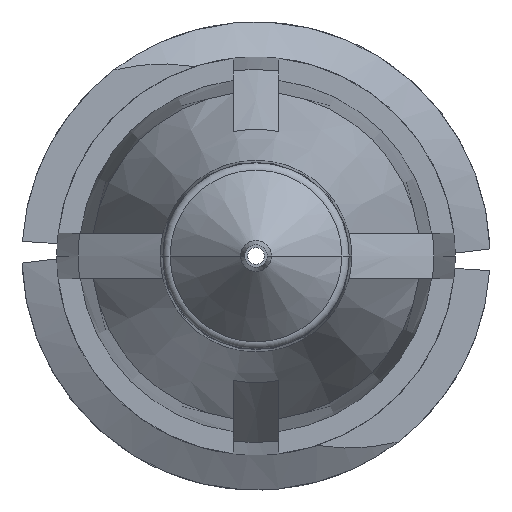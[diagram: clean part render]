
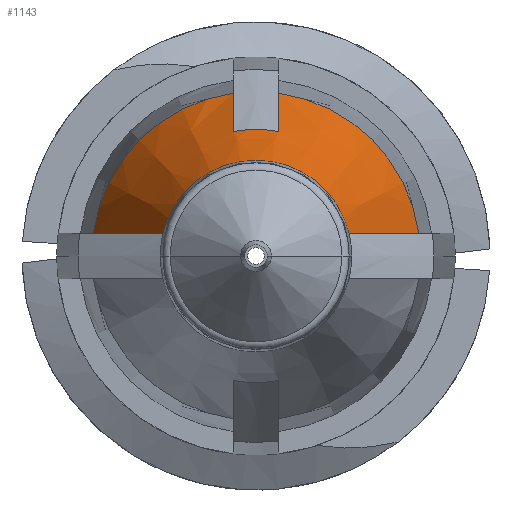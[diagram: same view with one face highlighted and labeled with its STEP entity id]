
A CAD part, front view. The second image highlights one B-rep face of the part: STEP entity #1143.
In plain terms, the highlighted conical face has half-angle 20 degrees and reference radius 2.745 mm.
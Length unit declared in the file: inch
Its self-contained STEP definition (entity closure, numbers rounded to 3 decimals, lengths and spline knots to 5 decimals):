
#5 = AXIS2_PLACEMENT_3D ( 'NONE', #179, #2522, #2738 ) ;
#23 = AXIS2_PLACEMENT_3D ( 'NONE', #2907, #1553, #2316 ) ;
#72 = DIRECTION ( 'NONE',  ( -1., 0., 0. ) ) ;
#164 = ORIENTED_EDGE ( 'NONE', *, *, #1667, .F. ) ;
#166 = CARTESIAN_POINT ( 'NONE',  ( 0.015, -0.406, 0.10703 ) ) ;
#168 = VERTEX_POINT ( 'NONE', #831 ) ;
#171 = EDGE_LOOP ( 'NONE', ( #3252, #2655, #757, #164, #3304, #1755, #1778, #1442 ) ) ;
#179 = CARTESIAN_POINT ( 'NONE',  ( 0., -0.406, 0. ) ) ;
#204 = CARTESIAN_POINT ( 'NONE',  ( 0., -0.406, 0. ) ) ;
#244 = CARTESIAN_POINT ( 'NONE',  ( -0.06119, -0.52985, 0.015 ) ) ;
#323 = EDGE_CURVE ( 'NONE', #2848, #1691, #1049, .T. ) ;
#353 = CONICAL_SURFACE ( 'NONE', #1115, 0.10808, 0.349 ) ;
#415 = CARTESIAN_POINT ( 'NONE',  ( 0.09185, -0.44732, 0.015 ) ) ;
#446 = CARTESIAN_POINT ( 'NONE',  ( 0.015, -0.47395, 0.08198 ) ) ;
#494 = EDGE_CURVE ( 'NONE', #2385, #2848, #1842, .T. ) ;
#711 = EDGE_CURVE ( 'NONE', #2385, #976, #2545, .T. ) ;
#729 = VERTEX_POINT ( 'NONE', #166 ) ;
#757 = ORIENTED_EDGE ( 'NONE', *, *, #2533, .T. ) ;
#791 = CIRCLE ( 'NONE', #2703, 0.10808 ) ;
#809 = CARTESIAN_POINT ( 'NONE',  ( 0.015, -0.47395, 0.08198 ) ) ;
#831 = CARTESIAN_POINT ( 'NONE',  ( -0.015, -0.47395, 0.08198 ) ) ;
#976 = VERTEX_POINT ( 'NONE', #2983 ) ;
#983 = VERTEX_POINT ( 'NONE', #2412 ) ;
#1046 = FACE_OUTER_BOUND ( 'NONE', #171, .T. ) ;
#1049 = CIRCLE ( 'NONE', #5, 0.10808 ) ;
#1079 = CARTESIAN_POINT ( 'NONE',  ( -0.015, -0.406, 0.10703 ) ) ;
#1095 = CARTESIAN_POINT ( 'NONE',  ( 0.015, -0.406, 0.10703 ) ) ;
#1115 = AXIS2_PLACEMENT_3D ( 'NONE', #1546, #2098, #2943 ) ;
#1128 = B_SPLINE_CURVE_WITH_KNOTS ( 'NONE', 3,
 ( #3289, #3301, #415, #1210 ),
 .UNSPECIFIED., .F., .F.,
 ( 4, 4 ),
 ( 0.00282, 0.00617 ),
 .UNSPECIFIED. ) ;
#1134 = CARTESIAN_POINT ( 'NONE',  ( -0.015, -0.47395, 0.08198 ) ) ;
#1143 = ADVANCED_FACE ( 'NONE', ( #1046 ), #353, .T. ) ;
#1210 = CARTESIAN_POINT ( 'NONE',  ( 0.10703, -0.406, 0.015 ) ) ;
#1311 = B_SPLINE_CURVE_WITH_KNOTS ( 'NONE', 3,
 ( #1079, #2621, #2166, #1134 ),
 .UNSPECIFIED., .F., .F.,
 ( 4, 4 ),
 ( 0.00343, 0.00527 ),
 .UNSPECIFIED. ) ;
#1323 = CARTESIAN_POINT ( 'NONE',  ( -0.09185, -0.44732, 0.015 ) ) ;
#1390 = CARTESIAN_POINT ( 'NONE',  ( 0., -0.52985, 0. ) ) ;
#1442 = ORIENTED_EDGE ( 'NONE', *, *, #323, .F. ) ;
#1538 = EDGE_CURVE ( 'NONE', #1691, #168, #1311, .T. ) ;
#1546 = CARTESIAN_POINT ( 'NONE',  ( 0., -0.406, 0. ) ) ;
#1553 = DIRECTION ( 'NONE',  ( 0., 1., 0. ) ) ;
#1590 = CARTESIAN_POINT ( 'NONE',  ( -0.06119, -0.52985, 0.015 ) ) ;
#1667 = EDGE_CURVE ( 'NONE', #729, #983, #791, .T. ) ;
#1685 = CIRCLE ( 'NONE', #23, 0.08335 ) ;
#1691 = VERTEX_POINT ( 'NONE', #2199 ) ;
#1700 = VERTEX_POINT ( 'NONE', #446 ) ;
#1753 = DIRECTION ( 'NONE',  ( -1., 0., 0. ) ) ;
#1755 = ORIENTED_EDGE ( 'NONE', *, *, #3158, .F. ) ;
#1778 = ORIENTED_EDGE ( 'NONE', *, *, #1538, .F. ) ;
#1842 = B_SPLINE_CURVE_WITH_KNOTS ( 'NONE', 3,
 ( #1590, #2589, #1323, #2881 ),
 .UNSPECIFIED., .F., .F.,
 ( 4, 4 ),
 ( 0.00282, 0.00617 ),
 .UNSPECIFIED. ) ;
#1854 = CARTESIAN_POINT ( 'NONE',  ( 0.015, -0.42866, 0.0987 ) ) ;
#2098 = DIRECTION ( 'NONE',  ( 0., 1., 0. ) ) ;
#2146 = CARTESIAN_POINT ( 'NONE',  ( 0.015, -0.45131, 0.09036 ) ) ;
#2166 = CARTESIAN_POINT ( 'NONE',  ( -0.015, -0.45131, 0.09036 ) ) ;
#2199 = CARTESIAN_POINT ( 'NONE',  ( -0.015, -0.406, 0.10703 ) ) ;
#2302 = DIRECTION ( 'NONE',  ( 0., 1., 0. ) ) ;
#2316 = DIRECTION ( 'NONE',  ( 1., 0., 0. ) ) ;
#2385 = VERTEX_POINT ( 'NONE', #244 ) ;
#2412 = CARTESIAN_POINT ( 'NONE',  ( 0.10703, -0.406, 0.015 ) ) ;
#2435 = DIRECTION ( 'NONE',  ( 0., 1., 0. ) ) ;
#2469 = EDGE_CURVE ( 'NONE', #1700, #729, #3180, .T. ) ;
#2522 = DIRECTION ( 'NONE',  ( 0., 1., 0. ) ) ;
#2533 = EDGE_CURVE ( 'NONE', #976, #983, #1128, .T. ) ;
#2545 = CIRCLE ( 'NONE', #2982, 0.063 ) ;
#2589 = CARTESIAN_POINT ( 'NONE',  ( -0.07664, -0.48863, 0.015 ) ) ;
#2621 = CARTESIAN_POINT ( 'NONE',  ( -0.015, -0.42866, 0.0987 ) ) ;
#2655 = ORIENTED_EDGE ( 'NONE', *, *, #711, .T. ) ;
#2703 = AXIS2_PLACEMENT_3D ( 'NONE', #204, #2302, #1753 ) ;
#2738 = DIRECTION ( 'NONE',  ( -1., 0., 0. ) ) ;
#2848 = VERTEX_POINT ( 'NONE', #3133 ) ;
#2881 = CARTESIAN_POINT ( 'NONE',  ( -0.10703, -0.406, 0.015 ) ) ;
#2907 = CARTESIAN_POINT ( 'NONE',  ( 0., -0.47395, 0. ) ) ;
#2943 = DIRECTION ( 'NONE',  ( -1., 0., 0. ) ) ;
#2982 = AXIS2_PLACEMENT_3D ( 'NONE', #1390, #2435, #72 ) ;
#2983 = CARTESIAN_POINT ( 'NONE',  ( 0.06119, -0.52985, 0.015 ) ) ;
#3133 = CARTESIAN_POINT ( 'NONE',  ( -0.10703, -0.406, 0.015 ) ) ;
#3158 = EDGE_CURVE ( 'NONE', #168, #1700, #1685, .T. ) ;
#3180 = B_SPLINE_CURVE_WITH_KNOTS ( 'NONE', 3,
 ( #809, #2146, #1854, #1095 ),
 .UNSPECIFIED., .F., .F.,
 ( 4, 4 ),
 ( 0.00247, 0.00431 ),
 .UNSPECIFIED. ) ;
#3252 = ORIENTED_EDGE ( 'NONE', *, *, #494, .F. ) ;
#3289 = CARTESIAN_POINT ( 'NONE',  ( 0.06119, -0.52985, 0.015 ) ) ;
#3301 = CARTESIAN_POINT ( 'NONE',  ( 0.07664, -0.48863, 0.015 ) ) ;
#3304 = ORIENTED_EDGE ( 'NONE', *, *, #2469, .F. ) ;
